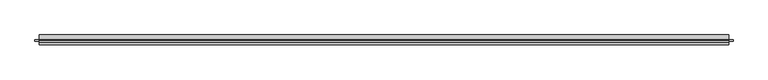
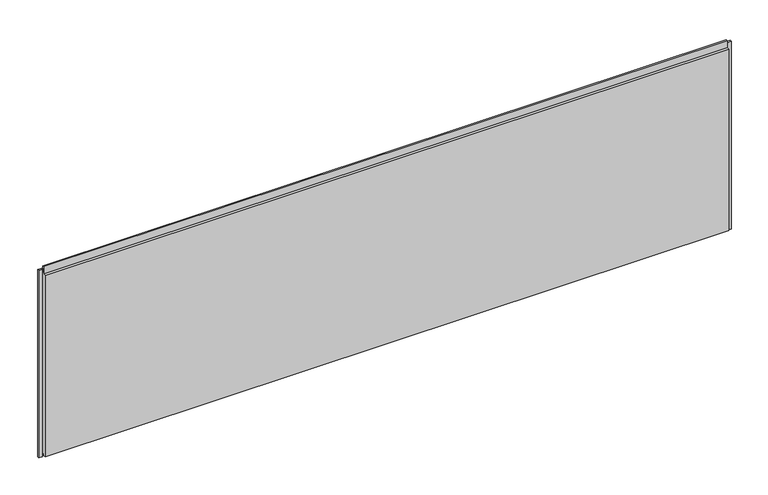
"""IFC4 building model written with IfcOpenShell, lengths in millimetres: plate geometry, Trimo_Qbiss Screen_Normal Panel-HORIZONTAL : HR - B."""

from ifc_helpers import new_model, si_unit, frame, origin, place, context, project, spatial, polyline, outline, extrude, source, transform, mapped, element, save


def plate_28179449(model_context):
    return source(origin(), model_context, "Body", "SweptSolid", [
        extrude(outline(polyline([(-1723.0, 76.5978162), (-1723.0, 67.8978162), (-1742.0, 67.8978162), (-1742.0, 76.5978162), (-1723.0, 76.5978162)])), frame((0.0, 0.0, -1.0), z_axis=(0.0, 0.0, 1.0), x_axis=(1.0, 0.0, 0.0)), (0.0, 0.0, 1.0), 997.5),
        extrude(outline(polyline([(1723.0, 67.8978162), (1723.0, 76.5978162), (1742.0, 76.5978162), (1742.0, 67.8978162), (1723.0, 67.8978162)])), frame((0.0, 0.0, -1.0), z_axis=(0.0, 0.0, 1.0), x_axis=(1.0, 0.0, 0.0)), (0.0, 0.0, 1.0), 997.5),
        extrude(outline(polyline([(1720.0, 76.0), (1720.0, 71.0), (-1720.0, 71.0), (-1720.0, 76.0), (1720.0, 76.0)])), frame((0.0, 0.0, 975.5), z_axis=(0.0, 0.0, 1.0), x_axis=(1.0, 0.0, 0.0)), (0.0, 0.0, 1.0), 21.0),
        extrude(outline(polyline([(71.0, 974.5), (100.0, 974.5), (100.0, 0.0), (72.0, 0.0), (72.0, 15.5), (62.0, 15.5), (62.0, 7.0), (50.0, 7.0), (50.0, 974.5), (63.0, 974.5), (63.0, 1012.0), (71.0, 1012.0), (71.0, 974.5)])), frame((-1720.0, 0.0, 0.0), z_axis=(1.0, 0.0, 0.0), x_axis=(0.0, 1.0, 0.0)), (0.0, 0.0, 1.0), 3440.0),
    ])


if __name__ == "__main__":
    model = new_model("IFC4")
    model_context = context("Model", 3, world=origin())
    ifc_project = project(units=[si_unit("LENGTHUNIT", "METRE", prefix="MILLI")], contexts=[model_context])
    site = spatial("IfcSite", under=ifc_project)
    building = spatial("IfcBuilding", under=site)
    placement = place(None, origin())
    plate_shape = plate_28179449(model_context)
    element("IfcPlate", 1, ObjectType="Trimo_Qbiss Screen_Normal Panel-HORIZONTAL : HR - B", at=placement, inside=building, context=model_context, shape_type="MappedRepresentation", body=[
        mapped(plate_shape, transform((0.0, 0.0, 0.0), x_axis=(1.0, 0.0, 0.0), y_axis=(0.0, 1.0, 0.0), z_axis=(0.0, 0.0, 1.0))),
    ])
    save(model, "model.ifc")
